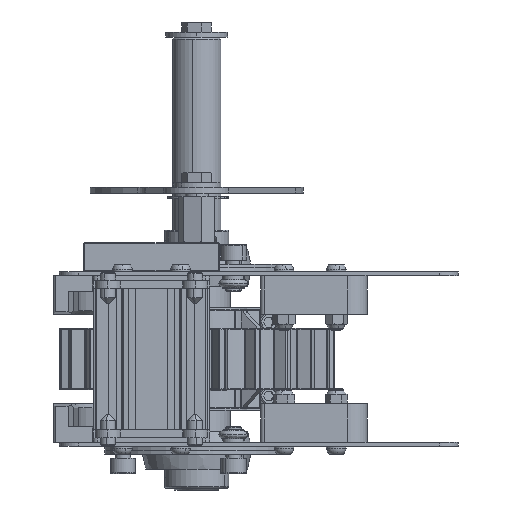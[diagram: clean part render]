
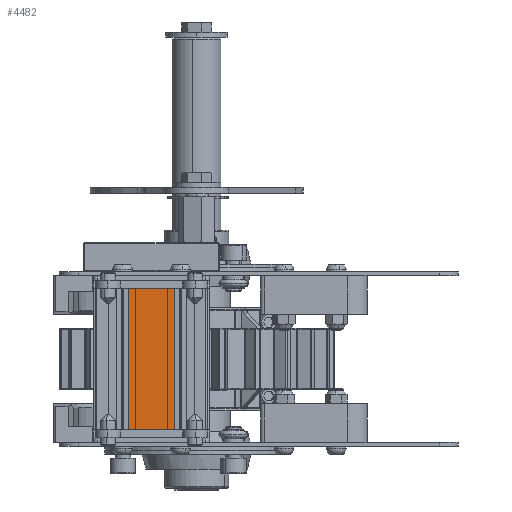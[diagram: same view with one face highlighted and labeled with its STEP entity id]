
A CAD part, left-side view. The second image highlights one B-rep face of the part: STEP entity #4482.
In plain terms, the highlighted planar face has unit normal (-1, 0, 0) as drawn and (0, 0, -1) by its records, which use the part's own axes.
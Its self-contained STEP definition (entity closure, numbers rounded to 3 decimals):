
#325 = DIRECTION ( 'NONE',  ( 0., 1., 0. ) ) ;
#2127 = VECTOR ( 'NONE', #73004, 1000. ) ;
#4317 = VECTOR ( 'NONE', #43422, 1000. ) ;
#4482 = ADVANCED_FACE ( 'NONE', ( #22759 ), #60624, .F. ) ;
#6873 = CARTESIAN_POINT ( 'NONE',  ( 36.5, -26.85, -15. ) ) ;
#12499 = CARTESIAN_POINT ( 'NONE',  ( 36.5, -26.85, -15. ) ) ;
#12866 = ORIENTED_EDGE ( 'NONE', *, *, #59392, .T. ) ;
#17424 = VERTEX_POINT ( 'NONE', #31368 ) ;
#18655 = CARTESIAN_POINT ( 'NONE',  ( -36.5, -3.15, -15. ) ) ;
#18661 = LINE ( 'NONE', #20777, #64829 ) ;
#20172 = EDGE_CURVE ( 'NONE', #27222, #30653, #18661, .T. ) ;
#20777 = CARTESIAN_POINT ( 'NONE',  ( 36.5, -3.15, -15. ) ) ;
#22759 = FACE_OUTER_BOUND ( 'NONE', #25909, .T. ) ;
#23335 = VERTEX_POINT ( 'NONE', #12499 ) ;
#24126 = LINE ( 'NONE', #36529, #56076 ) ;
#25909 = EDGE_LOOP ( 'NONE', ( #38759, #66315, #40660, #12866 ) ) ;
#26861 = DIRECTION ( 'NONE',  ( -1., 0., 0. ) ) ;
#27222 = VERTEX_POINT ( 'NONE', #75412 ) ;
#30653 = VERTEX_POINT ( 'NONE', #18655 ) ;
#31368 = CARTESIAN_POINT ( 'NONE',  ( -36.5, -26.85, -15. ) ) ;
#36162 = LINE ( 'NONE', #6873, #2127 ) ;
#36529 = CARTESIAN_POINT ( 'NONE',  ( -36.5, -26.85, -15. ) ) ;
#36709 = DIRECTION ( 'NONE',  ( 0., -1., 0. ) ) ;
#37246 = AXIS2_PLACEMENT_3D ( 'NONE', #66696, #72729, #36709 ) ;
#38759 = ORIENTED_EDGE ( 'NONE', *, *, #45256, .T. ) ;
#40660 = ORIENTED_EDGE ( 'NONE', *, *, #47585, .F. ) ;
#43422 = DIRECTION ( 'NONE',  ( -1., 0., 0. ) ) ;
#45256 = EDGE_CURVE ( 'NONE', #17424, #30653, #24126, .T. ) ;
#47585 = EDGE_CURVE ( 'NONE', #23335, #27222, #36162, .T. ) ;
#49954 = CARTESIAN_POINT ( 'NONE',  ( 36.5, -26.85, -15. ) ) ;
#52362 = LINE ( 'NONE', #49954, #4317 ) ;
#56076 = VECTOR ( 'NONE', #325, 1000. ) ;
#59392 = EDGE_CURVE ( 'NONE', #23335, #17424, #52362, .T. ) ;
#60624 = PLANE ( 'NONE',  #37246 ) ;
#64829 = VECTOR ( 'NONE', #26861, 1000. ) ;
#66315 = ORIENTED_EDGE ( 'NONE', *, *, #20172, .F. ) ;
#66696 = CARTESIAN_POINT ( 'NONE',  ( 36.5, -26.85, -15. ) ) ;
#72729 = DIRECTION ( 'NONE',  ( 0., 0., 1. ) ) ;
#73004 = DIRECTION ( 'NONE',  ( 0., 1., 0. ) ) ;
#75412 = CARTESIAN_POINT ( 'NONE',  ( 36.5, -3.15, -15. ) ) ;
